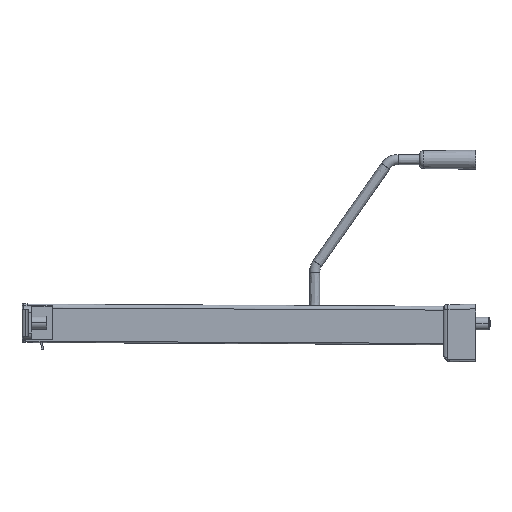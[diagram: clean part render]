
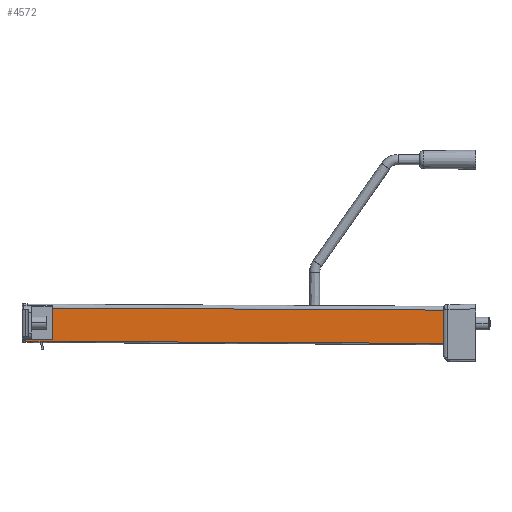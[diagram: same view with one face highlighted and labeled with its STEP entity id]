
A CAD part, left-side view. The second image highlights one B-rep face of the part: STEP entity #4572.
In plain terms, the highlighted planar face has unit normal (-1, 0, 0).
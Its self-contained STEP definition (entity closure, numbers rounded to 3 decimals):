
#758 = PLANE ( 'NONE',  #2699 ) ;
#759 = CARTESIAN_POINT ( 'NONE',  ( -5.25, 384.257, -13.624 ) ) ;
#760 = DIRECTION ( 'NONE',  ( 1., 0., 0. ) ) ;
#761 = DIRECTION ( 'NONE',  ( 0., 0., 1. ) ) ;
#1058 = CARTESIAN_POINT ( 'NONE',  ( -5.25, 25., -15.5 ) ) ;
#1561 = CARTESIAN_POINT ( 'NONE',  ( -5.25, 351.4, -12.42 ) ) ;
#2000 = VERTEX_POINT ( 'NONE', #1058 ) ;
#2040 = VERTEX_POINT ( 'NONE', #1561 ) ;
#2063 = VERTEX_POINT ( 'NONE', #4263 ) ;
#2071 = VERTEX_POINT ( 'NONE', #4271 ) ;
#2354 = VERTEX_POINT ( 'NONE', #5337 ) ;
#2360 = VERTEX_POINT ( 'NONE', #5343 ) ;
#2396 = EDGE_CURVE ( 'NONE', #2360, #2354, #3706, .T. ) ;
#2397 = EDGE_CURVE ( 'NONE', #2000, #2354, #3708, .T. ) ;
#2398 = EDGE_CURVE ( 'NONE', #2071, #2000, #3710, .T. ) ;
#2399 = EDGE_CURVE ( 'NONE', #2071, #2040, #3712, .T. ) ;
#2400 = EDGE_CURVE ( 'NONE', #2063, #2040, #3714, .T. ) ;
#2401 = EDGE_CURVE ( 'NONE', #2360, #2063, #3716, .T. ) ;
#2699 = AXIS2_PLACEMENT_3D ( 'NONE', #759, #760, #761 ) ;
#3706 = LINE ( 'NONE', #4633, #3707 ) ;
#3707 = VECTOR ( 'NONE', #4634, 1000. ) ;
#3708 = LINE ( 'NONE', #4635, #3709 ) ;
#3709 = VECTOR ( 'NONE', #4636, 1000. ) ;
#3710 = LINE ( 'NONE', #4637, #3711 ) ;
#3711 = VECTOR ( 'NONE', #4638, 1000. ) ;
#3712 = LINE ( 'NONE', #4639, #3713 ) ;
#3713 = VECTOR ( 'NONE', #4640, 1000. ) ;
#3714 = LINE ( 'NONE', #4641, #3715 ) ;
#3715 = VECTOR ( 'NONE', #4642, 1000. ) ;
#3716 = LINE ( 'NONE', #4643, #3717 ) ;
#3717 = VECTOR ( 'NONE', #4644, 1000. ) ;
#4080 = FACE_OUTER_BOUND ( 'NONE', #5151, .T. ) ;
#4263 = CARTESIAN_POINT ( 'NONE',  ( -5.25, 330.9, -12.42 ) ) ;
#4271 = CARTESIAN_POINT ( 'NONE',  ( -5.25, 351.4, -13.796 ) ) ;
#4572 = ADVANCED_FACE ( 'NONE', ( #4080 ), #758, .F. ) ;
#4633 = CARTESIAN_POINT ( 'NONE',  ( -5.25, 384.122, 12.376 ) ) ;
#4634 = DIRECTION ( 'NONE',  ( 0., -1., -0.005 ) ) ;
#4635 = CARTESIAN_POINT ( 'NONE',  ( -5.25, 25., 15. ) ) ;
#4636 = DIRECTION ( 'NONE',  ( 0., 0., 1. ) ) ;
#4637 = CARTESIAN_POINT ( 'NONE',  ( -5.25, 384.257, -13.624 ) ) ;
#4638 = DIRECTION ( 'NONE',  ( 0., -1., -0.005 ) ) ;
#4639 = CARTESIAN_POINT ( 'NONE',  ( -5.25, 351.4, -13.624 ) ) ;
#4640 = DIRECTION ( 'NONE',  ( 0., 0., 1. ) ) ;
#4641 = CARTESIAN_POINT ( 'NONE',  ( -5.25, 330.9, -12.42 ) ) ;
#4642 = DIRECTION ( 'NONE',  ( 0., 1., 0. ) ) ;
#4643 = CARTESIAN_POINT ( 'NONE',  ( -5.25, 330.9, 13.6 ) ) ;
#4644 = DIRECTION ( 'NONE',  ( 0., 0., -1. ) ) ;
#5132 = ORIENTED_EDGE ( 'NONE', *, *, #2401, .T. ) ;
#5133 = ORIENTED_EDGE ( 'NONE', *, *, #2400, .T. ) ;
#5134 = ORIENTED_EDGE ( 'NONE', *, *, #2399, .F. ) ;
#5135 = ORIENTED_EDGE ( 'NONE', *, *, #2398, .T. ) ;
#5136 = ORIENTED_EDGE ( 'NONE', *, *, #2397, .T. ) ;
#5137 = ORIENTED_EDGE ( 'NONE', *, *, #2396, .F. ) ;
#5151 = EDGE_LOOP ( 'NONE', ( #5132, #5133, #5134, #5135, #5136, #5137 ) ) ;
#5337 = CARTESIAN_POINT ( 'NONE',  ( -5.25, 25., 10.5 ) ) ;
#5343 = CARTESIAN_POINT ( 'NONE',  ( -5.25, 330.9, 12.098 ) ) ;
